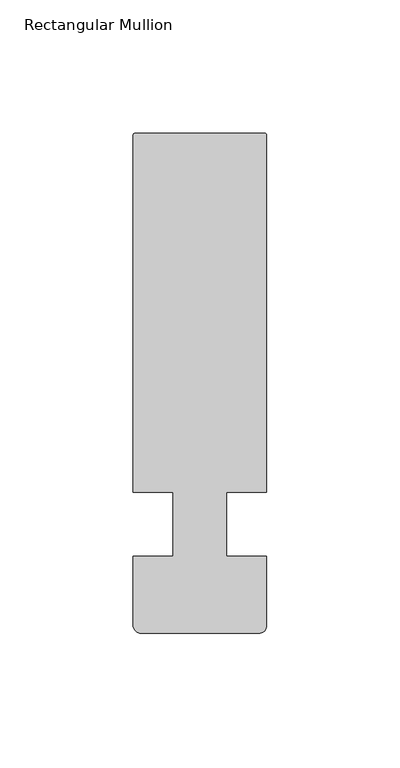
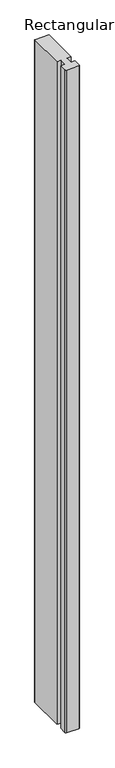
"""IFC4 building model written with IfcOpenShell, lengths in millimetres: member geometry, Rectangular Mullion : Reynaers verticaal."""

import ifcopenshell
import ifcopenshell.guid

model = None  # the IFC model being written
_history = None  # IfcOwnerHistory: only IFC2X3 demands one
_inside = {}  # id of a spatial element -> (the spatial element, [elements in it])
_under = {}  # id of a project, library or spatial element -> (it, [spatial elements below it])
_declared = {}  # id of a project -> (the project, [libraries it declares])
_typed = {}  # id of a type object -> (the type object, [elements of that type])
_made_of = {}  # id of a material, layer set ... -> (it, [elements and type objects made of it])


def new_model(schema):
    """Start an empty IFC model of exactly this schema.

    Asked for "IFC4X3", IfcOpenShell would pick the latest addendum, in which some entities
    have other attributes; the version numbers below select the first issue.
    IFC2X3 requires an IfcOwnerHistory on every rooted entity: one is made here for all.
    """
    global model, _history
    if schema == "IFC4X3":
        model = ifcopenshell.file(schema_version=(4, 3, 0, 0))
    else:
        model = ifcopenshell.file(schema=schema)
    _inside.clear()
    _under.clear()
    _declared.clear()
    _typed.clear()
    _made_of.clear()
    _history = None
    if model.schema == "IFC2X3":
        org = make("IfcOrganization", Name="unknown")
        user = make(
            "IfcPersonAndOrganization",
            ThePerson=make("IfcPerson", FamilyName="unknown"),
            TheOrganization=org,
        )
        app = make(
            "IfcApplication",
            ApplicationDeveloper=org,
            Version="unknown",
            ApplicationFullName="unknown",
            ApplicationIdentifier="unknown",
        )
        _history = make(
            "IfcOwnerHistory",
            OwningUser=user,
            OwningApplication=app,
            ChangeAction="ADDED",
            CreationDate=0,
        )
    return model


def make(cls, **values):
    """One entity of the class cls with the attributes given. An attribute that is None is left unset."""
    return model.create_entity(
        cls, **{name: value for name, value in values.items() if value is not None}
    )


def rooted(cls, **values):
    """An entity with a GlobalId (a new one), such as an element, a storey or a relation."""
    return make(cls, GlobalId=ifcopenshell.guid.new(), OwnerHistory=_history, **values)


def si_unit(unit_type, name, prefix=None):
    """IfcSIUnit, for example si_unit("LENGTHUNIT", "METRE", prefix="MILLI")."""
    return make("IfcSIUnit", UnitType=unit_type, Prefix=prefix, Name=name)


def assignment(units):
    """IfcUnitAssignment: the units of a project."""
    return None if units is None else make("IfcUnitAssignment", Units=units)


def point(xyz):
    """IfcCartesianPoint."""
    return None if xyz is None else make("IfcCartesianPoint", Coordinates=xyz)


def direction(xyz):
    """IfcDirection."""
    return None if xyz is None else make("IfcDirection", DirectionRatios=xyz)


def frame(location, z_axis=None, x_axis=None):
    """IfcAxis2Placement3D, a coordinate frame: its origin and axes. An axis left out is left unset."""
    return make(
        "IfcAxis2Placement3D",
        Location=point(location),
        Axis=direction(z_axis),
        RefDirection=direction(x_axis),
    )


def frame_2d(location, x_axis=None):
    """IfcAxis2Placement2D, a coordinate frame in the plane: its origin and x axis."""
    return make(
        "IfcAxis2Placement2D", Location=point(location), RefDirection=direction(x_axis)
    )


def origin():
    """The frame at (0, 0, 0) with its axes left unset."""
    return frame((0.0, 0.0, 0.0))


def place(relative_to, where):
    """IfcLocalPlacement: puts the frame where relative to a parent placement (None: the world)."""
    return make(
        "IfcLocalPlacement", PlacementRelTo=relative_to, RelativePlacement=where
    )


def context(
    kind, dimensions, precision=None, world=None, true_north=None, identifier=None
):
    """IfcGeometricRepresentationContext, for example the 3D "Model" context."""
    return make(
        "IfcGeometricRepresentationContext",
        ContextIdentifier=identifier,
        ContextType=kind,
        CoordinateSpaceDimension=dimensions,
        Precision=precision,
        WorldCoordinateSystem=world,
        TrueNorth=true_north,
    )


def project(units=None, contexts=None):
    """IfcProject with its units and contexts."""
    return rooted(
        "IfcProject",
        Name="project",
        RepresentationContexts=contexts,
        UnitsInContext=assignment(units),
    )


def spatial(cls, under=None, at=None, **own):
    """A site, building, storey or space (cls), placed at a placement, below another one or the project."""
    s = rooted(cls, ObjectPlacement=at, **own)
    if under is not None:
        _under.setdefault(under.id(), (under, []))[1].append(s)
    return s


def polyline(points):
    """IfcPolyline through the points."""
    return make("IfcPolyline", Points=[point(p) for p in points])


def circle_curve(where, radius):
    """IfcCircle in the frame where."""
    return make("IfcCircle", Position=where, Radius=radius)


def trimmed(basis, trim1, trim2, sense, master):
    """IfcTrimmedCurve: the piece of a basis curve between two trims."""
    return make(
        "IfcTrimmedCurve",
        BasisCurve=basis,
        Trim1=trim1,
        Trim2=trim2,
        SenseAgreement=sense,
        MasterRepresentation=master,
    )


def segment(curve, same_sense, transition):
    """IfcCompositeCurveSegment."""
    return make(
        "IfcCompositeCurveSegment",
        Transition=transition,
        SameSense=same_sense,
        ParentCurve=curve,
    )


def composite_curve(segments, self_intersect=None):
    """IfcCompositeCurve: segments joined end to end."""
    return make("IfcCompositeCurve", Segments=segments, SelfIntersect=self_intersect)


def outline(outer, holes=None, kind="AREA"):
    """IfcArbitraryClosedProfileDef: a profile drawn as a closed curve; with holes, ...WithVoids."""
    if holes is None:
        return make("IfcArbitraryClosedProfileDef", ProfileType=kind, OuterCurve=outer)
    return make(
        "IfcArbitraryProfileDefWithVoids",
        ProfileType=kind,
        OuterCurve=outer,
        InnerCurves=holes,
    )


def extrude(swept, where, along, depth):
    """IfcExtrudedAreaSolid: the profile swept, set in the frame where, extruded along a direction by depth."""
    return make(
        "IfcExtrudedAreaSolid",
        SweptArea=swept,
        Position=where,
        ExtrudedDirection=direction(along),
        Depth=depth,
    )


def shape(context_of_items, identifier, shape_type, items):
    """IfcShapeRepresentation: the items that make up one representation, for example the "Body"."""
    return make(
        "IfcShapeRepresentation",
        ContextOfItems=context_of_items,
        RepresentationIdentifier=identifier,
        RepresentationType=shape_type,
        Items=items,
    )


def source(mapping_origin, context_of_items, identifier, shape_type, items):
    """IfcRepresentationMap: a shape defined once, which mapped items show again and again."""
    return make(
        "IfcRepresentationMap",
        MappingOrigin=mapping_origin,
        MappedRepresentation=shape(context_of_items, identifier, shape_type, items),
    )


def transform(
    local_origin,
    x_axis=None,
    y_axis=None,
    z_axis=None,
    scale=None,
    scale2=None,
    scale3=None,
    uniform=True,
):
    """IfcCartesianTransformationOperator3D, or its non-uniform kind. x_axis, y_axis, z_axis: its Axis1, 2, 3."""
    if uniform:
        return make(
            "IfcCartesianTransformationOperator3D",
            Axis1=direction(x_axis),
            Axis2=direction(y_axis),
            LocalOrigin=point(local_origin),
            Scale=scale,
            Axis3=direction(z_axis),
        )
    return make(
        "IfcCartesianTransformationOperator3DnonUniform",
        Axis1=direction(x_axis),
        Axis2=direction(y_axis),
        LocalOrigin=point(local_origin),
        Scale=scale,
        Axis3=direction(z_axis),
        Scale2=scale2,
        Scale3=scale3,
    )


def mapped(mapping_source, mapping_target):
    """IfcMappedItem: shows the shape of a source again, moved by a transform."""
    return make(
        "IfcMappedItem", MappingSource=mapping_source, MappingTarget=mapping_target
    )


def made_of(thing, what):
    """Note that an element or type object is made of a material, layer set ...; save() writes the relation."""
    if what is not None:
        _made_of.setdefault(what.id(), (what, []))[1].append(thing)
    return thing


def element(
    cls,
    number,
    at=None,
    inside=None,
    cuts=None,
    type_object=None,
    material=None,
    context=None,
    identifier="Body",
    shape_type=None,
    held_by="IfcProductDefinitionShape",
    body=None,
    shapes=None,
    **own,
):
    """One element of the class cls, such as IfcWall. Its Tag is "e" and its number.

    at: its placement. inside: the storey or other place that contains it. cuts: it is an
    opening in that element (IfcRelVoidsElement). A single representation is given by context,
    identifier, shape_type and body (its items); several are given by shapes. held_by: the class
    of the entity that holds the representations. save() writes the other relations.
    """
    e = rooted(cls, Tag="e%d" % number, ObjectPlacement=at, **own)
    if body is not None:
        shapes = [shape(context, identifier, shape_type, body)]
    if shapes is not None:
        e.Representation = make(held_by, Representations=shapes)
    if inside is not None:
        _inside.setdefault(inside.id(), (inside, []))[1].append(e)
    if cuts is not None:
        rooted(
            "IfcRelVoidsElement", RelatingBuildingElement=cuts, RelatedOpeningElement=e
        )
    if type_object is not None:
        _typed.setdefault(type_object.id(), (type_object, []))[1].append(e)
    return made_of(e, material)


def aggregate(whole, parts):
    """IfcRelAggregates: a whole, such as a stair, and the parts it consists of."""
    return rooted("IfcRelAggregates", RelatingObject=whole, RelatedObjects=parts)


def save(model, path):
    """Write the relations noted so far, then the file.

    IfcRelAggregates (storeys below a building ...), IfcRelContainedInSpatialStructure (elements
    in a storey), IfcRelDefinesByType, IfcRelAssociatesMaterial and IfcRelDeclares: one each for
    every whole, place, type object, material and project.
    """
    for whole, parts in _under.values():
        aggregate(whole, parts)
    for where, things in _inside.values():
        rooted(
            "IfcRelContainedInSpatialStructure",
            RelatedElements=things,
            RelatingStructure=where,
        )
    for kind, things in _typed.values():
        rooted("IfcRelDefinesByType", RelatedObjects=things, RelatingType=kind)
    for what, things in _made_of.values():
        rooted("IfcRelAssociatesMaterial", RelatedObjects=things, RelatingMaterial=what)
    for by, libraries in _declared.values():
        rooted("IfcRelDeclares", RelatingContext=by, RelatedDefinitions=libraries)
    model.write(path)


def rectangular_mullion_f1299129(model_context):
    return source(origin(), model_context, "Body", "SweptSolid", [
        extrude(outline(composite_curve([segment(polyline([(-49.9879, -38.1094527), (-49.9879, -12.0), (-35.0, -12.0), (-35.0, 12.0), (-50.0, 12.0), (-50.0, 145.9999884)]), True, "CONTINUOUS"), segment(trimmed(circle_curve(frame_2d((-49.4999884, 145.9999884)), 0.5000116), [point((-50.0, 145.9999884))], [point((-49.4999884, 146.5))], False, "CARTESIAN"), True, "CONTINUOUS"), segment(polyline([(-49.4999884, 146.5), (-0.5000116, 146.5)]), True, "CONTINUOUS"), segment(trimmed(circle_curve(frame_2d((-0.5000116, 145.9999884)), 0.5000116), [point((-0.5000116, 146.5))], [point((0.0, 145.9999884))], False, "CARTESIAN"), True, "CONTINUOUS"), segment(polyline([(0.0, 145.9999884), (0.0, 11.9989825), (-15.0, 11.9989825), (-15.0, -12.0010175), (-0.0001, -12.0010175), (-0.0001, -37.841972)]), True, "CONTINUOUS"), segment(trimmed(circle_curve(frame_2d((-3.0001012, -37.841972)), 3.0000012), [point((-0.0001, -37.841972))], [point((-3.0001012, -40.8419732))], False, "CARTESIAN"), True, "CONTINUOUS"), segment(polyline([(-3.0001012, -40.8419732), (-47.0003621, -40.8419732)]), True, "CONTINUOUS"), segment(trimmed(circle_curve(frame_2d((-47.0003621, -37.8425353)), 2.9994379), [point((-47.0003621, -40.8419732))], [point((-49.9879, -38.1094527))], False, "CARTESIAN"), True, "CONTINUOUS")], self_intersect=False)), frame((0.0, 0.0, -2449.6666667), z_axis=(0.0, 0.0, 1.0), x_axis=(1.0, 0.0, 0.0)), (0.0, 0.0, 1.0), 2449.6666667),
    ])


if __name__ == "__main__":
    model = new_model("IFC4")
    model_context = context("Model", 3, world=origin())
    ifc_project = project(units=[si_unit("LENGTHUNIT", "METRE", prefix="MILLI")], contexts=[model_context])
    site = spatial("IfcSite", under=ifc_project)
    building = spatial("IfcBuilding", under=site)
    placement = place(None, origin())
    rectangular_mullion_shape = rectangular_mullion_f1299129(model_context)
    element("IfcMember", 1, ObjectType="Rectangular Mullion : Reynaers verticaal", at=placement, inside=building, context=model_context, shape_type="MappedRepresentation", body=[
        mapped(rectangular_mullion_shape, transform((0.0, 0.0, 0.0), x_axis=(1.0, 0.0, 0.0), y_axis=(0.0, 1.0, 0.0), z_axis=(0.0, 0.0, 1.0))),
    ])
    save(model, "model.ifc")
